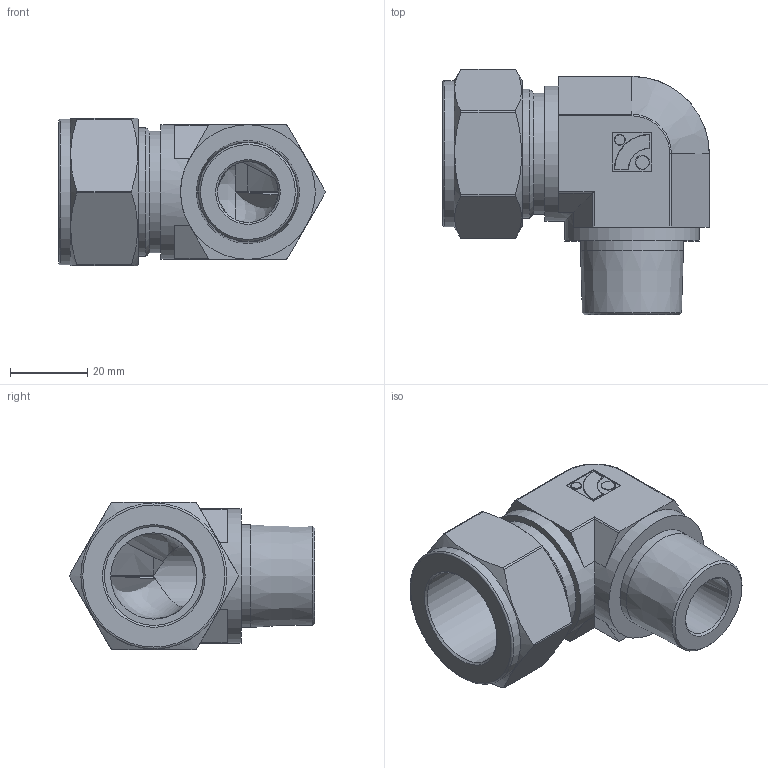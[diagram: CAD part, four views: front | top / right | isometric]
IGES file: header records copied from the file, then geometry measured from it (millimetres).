
Global section: file name: No Iges File Name specified; native system: Autodesk Inventor 2012; preprocessor: AutoDesk Inventor Iges Exporter R2012; author: 硅己绕,,1; organization: 1; date: 20150703.114505; units: millimetre
Bounding box: 69.13 x 63.62 x 38.1 mm (x, y, z)
Volume: 55706.5 mm3; surface area: 17530.9 mm2
Topology: 1 solids, 1 shells, 129 faces, 290 edges, 168 vertices
Faces by surface type: plane 42, cylinder 35, revolution 29, torus 12, cone 7, sphere 4
Full cylindrical faces by diameter (mm): 2.7 x1, 3.6 x1, 26.67 x1, 31.45 x1, 33.34 x1, 34.9 x2, 37.8 x1
